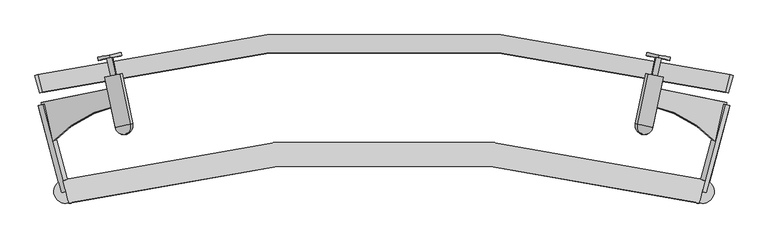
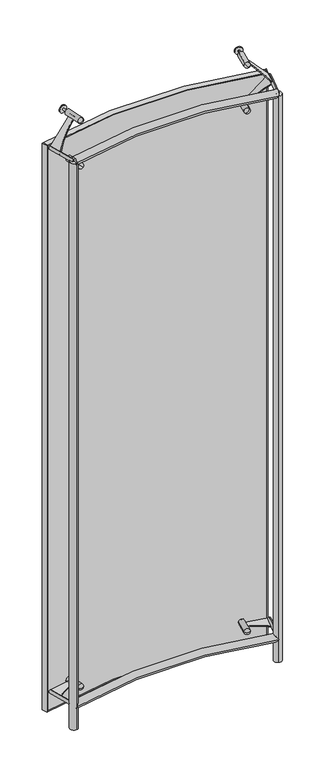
"""IFC4 building model written with IfcOpenShell, lengths in millimetres: plate geometry, CONVEX_SPIDER : CONVEX_SPIDER."""

from ifc_helpers import new_model, si_unit, point, frame, frame_2d, origin, origin_with_axes, place, context, project, spatial, polyline, circle_curve, ellipse_curve, trimmed, segment, composite_curve, outline, extrude, source, transform, mapped, element, save
from ifc_brep_helpers import plane_surface, cylinder_surface, revolved_surface, advanced_brep


def plate_3ce3822d(model_context):
    return source(origin(), model_context, "Body", "SolidModel", [
        extrude(outline(composite_curve([segment(polyline([(-30.0, 0.0), (0.0, 0.0)]), True, "CONTINUOUS"), segment(trimmed(circle_curve(frame_2d((375.1980994, -8.229243)), 375.2883348), [point((0.0, 0.0))], [point((39.9999999, -177.0))], True, "CARTESIAN"), True, "CONTINUOUS"), segment(polyline([(39.9999999, -177.0), (-30.0, -177.0), (-30.0, 0.0)]), True, "CONTINUOUS")], self_intersect=False)), frame((-438.330187, -48.3470288, 3228.232233), z_axis=(-0.6924142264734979, -0.14339643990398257, 0.707106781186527), x_axis=(0.20279319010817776, -0.9792215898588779, 0.0)), (0.0, 0.0, 1.0), 5.0),
        advanced_brep(
        [(-456.2846777, 29.6322073, 3230.0), (-459.7467489, 28.9152251, 3226.4644661), (-452.8226066, 30.3491895, 3233.5355339), (-439.8146686, 2.4065062, 3240.6066017), (-460.5870954, -1.895387, 3219.3933983), (-443.3496743, -85.1292221, 3219.3933983), (-422.5772475, -80.8273289, 3240.6066017), (-446.7388109, 0.9725418, 3233.5355339), (-453.6629532, -0.4614226, 3226.4644661), (-429.921563, -97.6665994, 3230.0)],
        [
            (0, 1),
            (1, 2, circle_curve(frame((-456.2846777, 29.6322073, 3230.0), z_axis=(-0.20279319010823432, 0.9792215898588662, 0.0), x_axis=(-0.6924142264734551, -0.14339643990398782, -0.707106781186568)), 5.0)),
            (2, 0),
            (2, 1, circle_curve(frame((-456.2846777, 29.6322073, 3230.0), z_axis=(-0.20279319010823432, 0.9792215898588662, 0.0), x_axis=(-0.6924142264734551, -0.14339643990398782, -0.707106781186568)), 5.0)),
            (3, 4, circle_curve(frame((-450.200882, 0.2555596, 3230.0), z_axis=(0.20279319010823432, -0.9792215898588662, 0.0), x_axis=(-0.6924142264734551, -0.14339643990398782, -0.707106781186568)), 15.0)),
            (4, 5),
            (5, 6, circle_curve(frame((-432.9634609, -82.9782755, 3230.0), z_axis=(-0.20279319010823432, 0.9792215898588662, 0.0), x_axis=(-0.6924142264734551, -0.14339643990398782, -0.707106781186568)), 15.0)),
            (6, 3),
            (4, 3, circle_curve(frame((-450.200882, 0.2555596, 3230.0), z_axis=(0.20279319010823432, -0.9792215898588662, 0.0), x_axis=(-0.6924142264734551, -0.14339643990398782, -0.707106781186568)), 15.0)),
            (6, 5, circle_curve(frame((-432.9634609, -82.9782755, 3230.0), z_axis=(-0.20279319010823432, 0.9792215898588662, 0.0), x_axis=(-0.6924142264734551, -0.14339643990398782, -0.707106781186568)), 15.0)),
            (7, 8, circle_curve(frame((-450.200882, 0.2555596, 3230.0), z_axis=(0.20279319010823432, -0.9792215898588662, 0.0), x_axis=(-0.6924142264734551, -0.14339643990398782, -0.707106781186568)), 5.0)),
            (8, 4),
            (3, 7),
            (8, 7, circle_curve(frame((-450.200882, 0.2555596, 3230.0), z_axis=(0.20279319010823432, -0.9792215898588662, 0.0), x_axis=(-0.6924142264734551, -0.14339643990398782, -0.707106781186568)), 5.0)),
            (1, 8),
            (7, 2),
            (5, 9, circle_curve(frame((-432.9634609, -82.9782755, 3230.0), z_axis=(-0.6924142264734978, -0.14339643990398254, 0.707106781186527), x_axis=(-0.6924142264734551, -0.14339643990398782, -0.707106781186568)), 15.0)),
            (9, 6, circle_curve(frame((-432.9634609, -82.9782755, 3230.0), z_axis=(-0.6924142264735, -0.14339643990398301, 0.7071067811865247), x_axis=(0.6924142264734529, 0.14339643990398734, 0.7071067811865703)), 15.0)),
        ],
        [
            plane_surface(frame((-456.2846777, 29.6322073, 3230.0), z_axis=(-0.20279319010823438, 0.9792215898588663, 0.0), x_axis=(-0.6924142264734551, -0.14339643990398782, -0.707106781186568))),
            cylinder_surface(frame((-507.9969412, 279.3337127, 3230.0), z_axis=(-0.20279319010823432, 0.9792215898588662, 0.0), x_axis=(-0.6924142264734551, -0.14339643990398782, -0.707106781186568)), 15.0),
            plane_surface(frame((-450.200882, 0.2555596, 3230.0), z_axis=(-0.20279319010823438, 0.9792215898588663, 0.0), x_axis=(-0.6924142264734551, -0.14339643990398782, -0.707106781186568))),
            cylinder_surface(frame((-507.9969412, 279.3337127, 3230.0), z_axis=(-0.20279319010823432, 0.9792215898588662, 0.0), x_axis=(-0.6924142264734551, -0.14339643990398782, -0.707106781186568)), 5.0),
            revolved_surface(trimmed(ellipse_curve(frame((-432.9634609, -82.9782755, 3230.0), z_axis=(0.6924142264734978, 0.14339643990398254, -0.707106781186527), x_axis=(-0.6924142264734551, -0.14339643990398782, -0.707106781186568)), 15.0, 15.0), [point((-429.921563, -97.6665994, 3230.0))], [point((-443.3496743, -85.1292221, 3219.3933983))], True, "CARTESIAN"), (-507.9969412, 279.3337127, 3230.0), (-0.20279319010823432, 0.9792215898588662, 0.0)),
        ],
        [
            (0, [[1, 2, 3]]),
            (0, [[-3, 4, -1]]),
            (1, [[5, 6, 7, 8]]),
            (1, [[9, -8, 10, -6]]),
            (2, [[11, 12, -5, 13]]),
            (2, [[14, -13, -9, -12]]),
            (3, [[-2, 15, -11, 16]]),
            (3, [[-4, -16, -14, -15]]),
            (4, [[-7, 17, 18]]),
            (4, [[-10, -18, -17]]),
        ],
    ),
        extrude(outline(composite_curve([segment(polyline([(-30.0, 0.0), (-30.0, 177.0), (39.9999999, 177.0)]), True, "CONTINUOUS"), segment(trimmed(circle_curve(frame_2d((375.1980994, 8.229243)), 375.2883348), [point((39.9999999, 177.0))], [point((0.0, 0.0))], True, "CARTESIAN"), True, "CONTINUOUS"), segment(polyline([(0.0, 0.0), (-30.0, 0.0)]), True, "CONTINUOUS")], self_intersect=False)), frame((438.330187, -48.3470288, 3228.232233), z_axis=(0.6924142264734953, -0.14339643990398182, 0.7071067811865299), x_axis=(-0.2027931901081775, -0.979221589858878, 0.0)), (0.0, 0.0, 1.0), 5.0),
        advanced_brep(
        [(456.2846777, 29.6322073, 3230.0), (452.8226066, 30.3491895, 3233.5355339), (459.7467489, 28.9152251, 3226.4644661), (439.8146686, 2.4065062, 3240.6066017), (422.5772475, -80.8273289, 3240.6066017), (443.3496743, -85.1292221, 3219.3933983), (460.5870954, -1.895387, 3219.3933983), (446.7388109, 0.9725418, 3233.5355339), (453.6629532, -0.4614226, 3226.4644661), (429.921563, -97.6665994, 3230.0)],
        [
            (0, 1),
            (1, 2, circle_curve(frame((456.2846777, 29.6322073, 3230.0), z_axis=(0.20279319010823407, 0.9792215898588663, 0.0), x_axis=(0.6924142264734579, -0.14339643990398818, -0.7071067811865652)), 5.0)),
            (2, 0),
            (2, 1, circle_curve(frame((456.2846777, 29.6322073, 3230.0), z_axis=(0.20279319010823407, 0.9792215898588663, 0.0), x_axis=(0.6924142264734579, -0.14339643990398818, -0.7071067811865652)), 5.0)),
            (3, 4),
            (4, 5, circle_curve(frame((432.9634609, -82.9782755, 3230.0), z_axis=(0.20279319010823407, 0.9792215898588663, 0.0), x_axis=(0.6924142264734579, -0.14339643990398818, -0.7071067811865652)), 15.0)),
            (5, 6),
            (6, 3, circle_curve(frame((450.200882, 0.2555596, 3230.0), z_axis=(-0.20279319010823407, -0.9792215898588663, 0.0), x_axis=(0.6924142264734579, -0.14339643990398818, -0.7071067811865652)), 15.0)),
            (5, 4, circle_curve(frame((432.9634609, -82.9782755, 3230.0), z_axis=(0.20279319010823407, 0.9792215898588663, 0.0), x_axis=(0.6924142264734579, -0.14339643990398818, -0.7071067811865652)), 15.0)),
            (3, 6, circle_curve(frame((450.200882, 0.2555596, 3230.0), z_axis=(-0.20279319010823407, -0.9792215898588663, 0.0), x_axis=(0.6924142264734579, -0.14339643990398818, -0.7071067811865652)), 15.0)),
            (7, 3),
            (6, 8),
            (8, 7, circle_curve(frame((450.200882, 0.2555596, 3230.0), z_axis=(-0.20279319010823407, -0.9792215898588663, 0.0), x_axis=(0.6924142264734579, -0.14339643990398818, -0.7071067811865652)), 5.0)),
            (7, 8, circle_curve(frame((450.200882, 0.2555596, 3230.0), z_axis=(-0.20279319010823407, -0.9792215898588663, 0.0), x_axis=(0.6924142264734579, -0.14339643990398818, -0.7071067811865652)), 5.0)),
            (1, 7),
            (8, 2),
            (4, 9, circle_curve(frame((432.9634609, -82.9782755, 3230.0), z_axis=(0.6924142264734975, -0.1433964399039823, 0.7071067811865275), x_axis=(-0.6924142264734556, 0.1433964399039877, 0.7071067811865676)), 15.0)),
            (9, 5, circle_curve(frame((432.9634609, -82.9782755, 3230.0), z_axis=(0.6924142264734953, -0.14339643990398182, 0.7071067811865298), x_axis=(0.6924142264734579, -0.14339643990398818, -0.7071067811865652)), 15.0)),
        ],
        [
            plane_surface(frame((456.2846777, 29.6322073, 3230.0), z_axis=(0.20279319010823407, 0.9792215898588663, 0.0), x_axis=(0.6924142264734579, -0.14339643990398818, -0.7071067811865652))),
            cylinder_surface(frame((507.9969412, 279.3337127, 3230.0), z_axis=(0.20279319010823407, 0.9792215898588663, 0.0), x_axis=(0.6924142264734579, -0.14339643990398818, -0.7071067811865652)), 15.0),
            plane_surface(frame((450.200882, 0.2555596, 3230.0), z_axis=(0.20279319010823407, 0.9792215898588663, 0.0), x_axis=(0.6924142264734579, -0.14339643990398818, -0.7071067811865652))),
            cylinder_surface(frame((507.9969412, 279.3337127, 3230.0), z_axis=(0.20279319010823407, 0.9792215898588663, 0.0), x_axis=(0.6924142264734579, -0.14339643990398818, -0.7071067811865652)), 5.0),
            revolved_surface(trimmed(ellipse_curve(frame((432.9634609, -82.9782755, 3230.0), z_axis=(0.6924142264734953, -0.14339643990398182, 0.7071067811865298), x_axis=(0.6924142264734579, -0.14339643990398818, -0.7071067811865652)), 15.0, 15.0), [point((429.921563, -97.6665994, 3230.0))], [point((443.3496743, -85.1292221, 3219.3933983))], True, "CARTESIAN"), (507.9969412, 279.3337127, 3230.0), (0.20279319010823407, 0.9792215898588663, 0.0)),
        ],
        [
            (0, [[1, 2, 3]]),
            (0, [[-3, 4, -1]]),
            (1, [[5, 6, 7, 8]]),
            (1, [[-7, 9, -5, 10]]),
            (2, [[11, -8, 12, 13]]),
            (2, [[-12, -10, -11, 14]]),
            (3, [[15, -13, 16, -2]]),
            (3, [[-16, -14, -15, -4]]),
            (4, [[17, 18, -6]]),
            (4, [[-18, -17, -9]]),
        ],
    ),
        extrude(outline(composite_curve([segment(polyline([(30.0, 0.0), (30.0, -177.0), (-39.9999999, -177.0)]), True, "CONTINUOUS"), segment(trimmed(circle_curve(frame_2d((-375.1980994, -8.2292431)), 375.2883348), [point((-39.9999999, -177.0))], [point((0.0, 0.0))], True, "CARTESIAN"), True, "CONTINUOUS"), segment(polyline([(0.0, 0.0), (30.0, 0.0)]), True, "CONTINUOUS")], self_intersect=False)), frame((441.7922581, -49.064011, 2978.232233), z_axis=(-0.6924142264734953, 0.14339643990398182, 0.7071067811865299), x_axis=(0.2027931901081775, 0.979221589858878, 0.0)), (0.0, 0.0, 1.0), 5.0),
        advanced_brep(
        [(456.2846777, 29.6322073, 2980.0), (459.7467489, 28.9152251, 2983.5355339), (452.8226066, 30.3491895, 2976.4644661), (439.8146686, 2.4065062, 2969.3933983), (460.5870954, -1.895387, 2990.6066017), (443.3496743, -85.1292221, 2990.6066017), (422.5772475, -80.8273289, 2969.3933983), (446.7388109, 0.9725418, 2976.4644661), (453.6629532, -0.4614226, 2983.5355339), (429.921563, -97.6665994, 2980.0)],
        [
            (0, 1),
            (1, 2, circle_curve(frame((456.2846777, 29.6322073, 2980.0), z_axis=(0.20279319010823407, 0.9792215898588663, 0.0), x_axis=(0.6924142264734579, -0.14339643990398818, 0.7071067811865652)), 5.0)),
            (2, 0),
            (2, 1, circle_curve(frame((456.2846777, 29.6322073, 2980.0), z_axis=(0.20279319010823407, 0.9792215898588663, 0.0), x_axis=(0.6924142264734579, -0.14339643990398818, 0.7071067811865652)), 5.0)),
            (3, 4, circle_curve(frame((450.200882, 0.2555596, 2980.0), z_axis=(-0.20279319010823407, -0.9792215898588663, 0.0), x_axis=(0.6924142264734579, -0.14339643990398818, 0.7071067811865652)), 15.0)),
            (4, 5),
            (5, 6, circle_curve(frame((432.9634609, -82.9782755, 2980.0), z_axis=(0.20279319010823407, 0.9792215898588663, 0.0), x_axis=(0.6924142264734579, -0.14339643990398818, 0.7071067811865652)), 15.0)),
            (6, 3),
            (4, 3, circle_curve(frame((450.200882, 0.2555596, 2980.0), z_axis=(-0.20279319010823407, -0.9792215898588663, 0.0), x_axis=(0.6924142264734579, -0.14339643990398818, 0.7071067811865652)), 15.0)),
            (6, 5, circle_curve(frame((432.9634609, -82.9782755, 2980.0), z_axis=(0.20279319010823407, 0.9792215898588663, 0.0), x_axis=(0.6924142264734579, -0.14339643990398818, 0.7071067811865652)), 15.0)),
            (7, 8, circle_curve(frame((450.200882, 0.2555596, 2980.0), z_axis=(-0.20279319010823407, -0.9792215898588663, 0.0), x_axis=(0.6924142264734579, -0.14339643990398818, 0.7071067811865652)), 5.0)),
            (8, 4),
            (3, 7),
            (8, 7, circle_curve(frame((450.200882, 0.2555596, 2980.0), z_axis=(-0.20279319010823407, -0.9792215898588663, 0.0), x_axis=(0.6924142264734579, -0.14339643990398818, 0.7071067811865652)), 5.0)),
            (1, 8),
            (7, 2),
            (5, 9, circle_curve(frame((432.9634609, -82.9782755, 2980.0), z_axis=(0.6924142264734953, -0.14339643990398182, -0.7071067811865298), x_axis=(0.6924142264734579, -0.14339643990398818, 0.7071067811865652)), 15.0)),
            (9, 6, circle_curve(frame((432.9634609, -82.9782755, 2980.0), z_axis=(0.6924142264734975, -0.1433964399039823, -0.7071067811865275), x_axis=(-0.6924142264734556, 0.1433964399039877, -0.7071067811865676)), 15.0)),
        ],
        [
            plane_surface(frame((456.2846777, 29.6322073, 2980.0), z_axis=(0.20279319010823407, 0.9792215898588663, 0.0), x_axis=(0.6924142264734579, -0.14339643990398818, 0.7071067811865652))),
            cylinder_surface(frame((507.9969412, 279.3337127, 2980.0), z_axis=(0.20279319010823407, 0.9792215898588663, 0.0), x_axis=(0.6924142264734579, -0.14339643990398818, 0.7071067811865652)), 15.0),
            plane_surface(frame((450.200882, 0.2555596, 2980.0), z_axis=(0.20279319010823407, 0.9792215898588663, 0.0), x_axis=(0.6924142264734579, -0.14339643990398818, 0.7071067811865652))),
            cylinder_surface(frame((507.9969412, 279.3337127, 2980.0), z_axis=(0.20279319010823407, 0.9792215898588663, 0.0), x_axis=(0.6924142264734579, -0.14339643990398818, 0.7071067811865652)), 5.0),
            revolved_surface(trimmed(ellipse_curve(frame((432.9634609, -82.9782755, 2980.0), z_axis=(-0.6924142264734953, 0.14339643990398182, 0.7071067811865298), x_axis=(0.6924142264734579, -0.14339643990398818, 0.7071067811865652)), 15.0, 15.0), [point((429.921563, -97.6665994, 2980.0))], [point((443.3496743, -85.1292221, 2990.6066017))], True, "CARTESIAN"), (507.9969412, 279.3337127, 2980.0), (0.20279319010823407, 0.9792215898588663, 0.0)),
        ],
        [
            (0, [[1, 2, 3]]),
            (0, [[-3, 4, -1]]),
            (1, [[5, 6, 7, 8]]),
            (1, [[9, -8, 10, -6]]),
            (2, [[11, 12, -5, 13]]),
            (2, [[14, -13, -9, -12]]),
            (3, [[-2, 15, -11, 16]]),
            (3, [[-4, -16, -14, -15]]),
            (4, [[-7, 17, 18]]),
            (4, [[-10, -18, -17]]),
        ],
    ),
        extrude(outline(composite_curve([segment(polyline([(30.0, 0.0), (0.0, 0.0)]), True, "CONTINUOUS"), segment(trimmed(circle_curve(frame_2d((-375.1980994, 8.2292431)), 375.2883348), [point((0.0, 0.0))], [point((-39.9999999, 177.0))], True, "CARTESIAN"), True, "CONTINUOUS"), segment(polyline([(-39.9999999, 177.0), (30.0, 177.0), (30.0, 0.0)]), True, "CONTINUOUS")], self_intersect=False)), frame((-441.7922581, -49.064011, 2978.232233), z_axis=(0.6924142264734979, 0.14339643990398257, 0.707106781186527), x_axis=(-0.20279319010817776, 0.9792215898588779, 0.0)), (0.0, 0.0, 1.0), 5.0),
        advanced_brep(
        [(-456.2846777, 29.6322073, 2980.0), (-452.8226066, 30.3491895, 2976.4644661), (-459.7467489, 28.9152251, 2983.5355339), (-439.8146686, 2.4065062, 2969.3933983), (-422.5772475, -80.8273289, 2969.3933983), (-443.3496743, -85.1292221, 2990.6066017), (-460.5870954, -1.895387, 2990.6066017), (-446.7388109, 0.9725418, 2976.4644661), (-453.6629532, -0.4614226, 2983.5355339), (-429.921563, -97.6665994, 2980.0)],
        [
            (0, 1),
            (1, 2, circle_curve(frame((-456.2846777, 29.6322073, 2980.0), z_axis=(-0.20279319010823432, 0.9792215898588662, 0.0), x_axis=(-0.6924142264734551, -0.14339643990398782, 0.707106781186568)), 5.0)),
            (2, 0),
            (2, 1, circle_curve(frame((-456.2846777, 29.6322073, 2980.0), z_axis=(-0.20279319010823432, 0.9792215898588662, 0.0), x_axis=(-0.6924142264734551, -0.14339643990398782, 0.707106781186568)), 5.0)),
            (3, 4),
            (4, 5, circle_curve(frame((-432.9634609, -82.9782755, 2980.0), z_axis=(-0.20279319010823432, 0.9792215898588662, 0.0), x_axis=(-0.6924142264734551, -0.14339643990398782, 0.707106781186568)), 15.0)),
            (5, 6),
            (6, 3, circle_curve(frame((-450.200882, 0.2555596, 2980.0), z_axis=(0.20279319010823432, -0.9792215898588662, 0.0), x_axis=(-0.6924142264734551, -0.14339643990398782, 0.707106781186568)), 15.0)),
            (5, 4, circle_curve(frame((-432.9634609, -82.9782755, 2980.0), z_axis=(-0.20279319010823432, 0.9792215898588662, 0.0), x_axis=(-0.6924142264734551, -0.14339643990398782, 0.707106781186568)), 15.0)),
            (3, 6, circle_curve(frame((-450.200882, 0.2555596, 2980.0), z_axis=(0.20279319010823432, -0.9792215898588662, 0.0), x_axis=(-0.6924142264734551, -0.14339643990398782, 0.707106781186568)), 15.0)),
            (7, 3),
            (6, 8),
            (8, 7, circle_curve(frame((-450.200882, 0.2555596, 2980.0), z_axis=(0.20279319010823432, -0.9792215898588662, 0.0), x_axis=(-0.6924142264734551, -0.14339643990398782, 0.707106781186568)), 5.0)),
            (7, 8, circle_curve(frame((-450.200882, 0.2555596, 2980.0), z_axis=(0.20279319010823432, -0.9792215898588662, 0.0), x_axis=(-0.6924142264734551, -0.14339643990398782, 0.707106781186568)), 5.0)),
            (1, 7),
            (8, 2),
            (4, 9, circle_curve(frame((-432.9634609, -82.9782755, 2980.0), z_axis=(-0.6924142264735, -0.14339643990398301, -0.7071067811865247), x_axis=(0.6924142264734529, 0.14339643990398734, -0.7071067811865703)), 15.0)),
            (9, 5, circle_curve(frame((-432.9634609, -82.9782755, 2980.0), z_axis=(-0.6924142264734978, -0.14339643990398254, -0.707106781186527), x_axis=(-0.6924142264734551, -0.14339643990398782, 0.707106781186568)), 15.0)),
        ],
        [
            plane_surface(frame((-456.2846777, 29.6322073, 2980.0), z_axis=(-0.20279319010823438, 0.9792215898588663, 0.0), x_axis=(-0.6924142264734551, -0.14339643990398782, 0.707106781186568))),
            cylinder_surface(frame((-507.9969412, 279.3337127, 2980.0), z_axis=(-0.20279319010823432, 0.9792215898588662, 0.0), x_axis=(-0.6924142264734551, -0.14339643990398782, 0.707106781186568)), 15.0),
            plane_surface(frame((-450.200882, 0.2555596, 2980.0), z_axis=(-0.20279319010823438, 0.9792215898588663, 0.0), x_axis=(-0.6924142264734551, -0.14339643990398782, 0.707106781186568))),
            cylinder_surface(frame((-507.9969412, 279.3337127, 2980.0), z_axis=(-0.20279319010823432, 0.9792215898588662, 0.0), x_axis=(-0.6924142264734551, -0.14339643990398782, 0.707106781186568)), 5.0),
            revolved_surface(trimmed(ellipse_curve(frame((-432.9634609, -82.9782755, 2980.0), z_axis=(-0.6924142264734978, -0.14339643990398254, -0.707106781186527), x_axis=(-0.6924142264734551, -0.14339643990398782, 0.707106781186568)), 15.0, 15.0), [point((-429.921563, -97.6665994, 2980.0))], [point((-443.3496743, -85.1292221, 2990.6066017))], True, "CARTESIAN"), (-507.9969412, 279.3337127, 2980.0), (-0.20279319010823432, 0.9792215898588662, 0.0)),
        ],
        [
            (0, [[1, 2, 3]]),
            (0, [[-3, 4, -1]]),
            (1, [[5, 6, 7, 8]]),
            (1, [[-7, 9, -5, 10]]),
            (2, [[11, -8, 12, 13]]),
            (2, [[-12, -10, -11, 14]]),
            (3, [[15, -13, 16, -2]]),
            (3, [[-16, -14, -15, -4]]),
            (4, [[17, 18, -6]]),
            (4, [[-18, -17, -9]]),
        ],
    ),
        extrude(outline(composite_curve([segment(polyline([(446.1450182, -19.3288722), (568.547717, -44.678021), (554.3521937, -113.2235322)]), True, "CONTINUOUS"), segment(trimmed(circle_curve(frame_2d((389.613546, -271.5613305)), 228.4943772), [point((554.3521937, -113.2235322))], [point((440.0612225, -48.7055199))], True, "CARTESIAN"), True, "CONTINUOUS"), segment(polyline([(440.0612225, -48.7055199), (446.1450182, -19.3288722)]), True, "CONTINUOUS")], self_intersect=False)), frame((0.0, 0.0, 122.5), z_axis=(0.0, 0.0, 1.0), x_axis=(1.0, 0.0, 0.0)), (0.0, 0.0, 1.0), 5.0),
        advanced_brep(
        [(456.2846777, 29.6322073, 125.0), (461.1807857, 28.6182413, 125.0), (451.3885698, 30.6461733, 125.0), (435.5125582, 3.2974575, 125.0), (464.8892059, -2.7863382, 125.0), (447.6517847, -86.0201734, 125.0), (418.275137, -79.9363777, 125.0), (445.3047741, 1.2695256, 125.0), (455.09699, -0.7584063, 125.0), (429.921563, -97.6665994, 125.0)],
        [
            (0, 1),
            (1, 2, circle_curve(frame((456.2846777, 29.6322073, 125.0), z_axis=(0.20279319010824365, 0.9792215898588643, 0.0), x_axis=(0.9792215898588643, -0.20279319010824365, 0.0)), 5.0)),
            (2, 0),
            (2, 1, circle_curve(frame((456.2846777, 29.6322073, 125.0), z_axis=(0.20279319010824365, 0.9792215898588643, 0.0), x_axis=(0.9792215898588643, -0.20279319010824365, 0.0)), 5.0)),
            (3, 4, circle_curve(frame((450.200882, 0.2555596, 125.0), z_axis=(-0.20279319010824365, -0.9792215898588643, 0.0), x_axis=(0.9792215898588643, -0.20279319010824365, 0.0)), 15.0)),
            (4, 5),
            (5, 6, circle_curve(frame((432.9634609, -82.9782755, 125.0), z_axis=(0.20279319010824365, 0.9792215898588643, 0.0), x_axis=(0.9792215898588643, -0.20279319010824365, 0.0)), 15.0)),
            (6, 3),
            (4, 3, circle_curve(frame((450.200882, 0.2555596, 125.0), z_axis=(-0.20279319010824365, -0.9792215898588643, 0.0), x_axis=(0.9792215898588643, -0.20279319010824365, 0.0)), 15.0)),
            (6, 5, circle_curve(frame((432.9634609, -82.9782755, 125.0), z_axis=(0.20279319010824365, 0.9792215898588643, 0.0), x_axis=(0.9792215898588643, -0.20279319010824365, 0.0)), 15.0)),
            (7, 8, circle_curve(frame((450.200882, 0.2555596, 125.0), z_axis=(-0.20279319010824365, -0.9792215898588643, 0.0), x_axis=(0.9792215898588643, -0.20279319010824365, 0.0)), 5.0)),
            (8, 4),
            (3, 7),
            (8, 7, circle_curve(frame((450.200882, 0.2555596, 125.0), z_axis=(-0.20279319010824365, -0.9792215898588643, 0.0), x_axis=(0.9792215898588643, -0.20279319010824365, 0.0)), 5.0)),
            (1, 8),
            (7, 2),
            (5, 9, circle_curve(frame((432.9634609, -82.9782755, 125.0), z_axis=(0.0, 0.0, -1.0000000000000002), x_axis=(0.9792215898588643, -0.20279319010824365, 0.0)), 15.0)),
            (9, 6, circle_curve(frame((432.9634609, -82.9782755, 125.0), z_axis=(0.0, 0.0, -1.0000000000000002), x_axis=(-0.9792215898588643, 0.20279319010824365, 0.0)), 15.0)),
        ],
        [
            plane_surface(frame((456.2846777, 29.6322073, 125.0), z_axis=(0.20279319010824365, 0.9792215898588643, 0.0), x_axis=(0.9792215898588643, -0.20279319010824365, 0.0))),
            cylinder_surface(frame((507.9969412, 279.3337127, 125.0), z_axis=(0.20279319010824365, 0.9792215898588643, 0.0), x_axis=(0.9792215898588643, -0.20279319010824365, 0.0)), 15.0),
            plane_surface(frame((450.200882, 0.2555596, 125.0), z_axis=(0.20279319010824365, 0.9792215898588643, 0.0), x_axis=(0.9792215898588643, -0.20279319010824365, 0.0))),
            cylinder_surface(frame((507.9969412, 279.3337127, 125.0), z_axis=(0.20279319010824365, 0.9792215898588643, 0.0), x_axis=(0.9792215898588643, -0.20279319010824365, 0.0)), 5.0),
            revolved_surface(trimmed(ellipse_curve(frame((432.9634609, -82.9782755, 125.0), z_axis=(0.0, 0.0, 1.0000000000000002), x_axis=(0.9792215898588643, -0.20279319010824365, 0.0)), 15.0, 15.0), [point((429.921563, -97.6665994, 125.0))], [point((447.6517847, -86.0201734, 125.0))], True, "CARTESIAN"), (507.9969412, 279.3337127, 125.0), (0.20279319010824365, 0.9792215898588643, 0.0)),
        ],
        [
            (0, [[1, 2, 3]]),
            (0, [[-3, 4, -1]]),
            (1, [[5, 6, 7, 8]]),
            (1, [[9, -8, 10, -6]]),
            (2, [[11, 12, -5, 13]]),
            (2, [[14, -13, -9, -12]]),
            (3, [[-2, 15, -11, 16]]),
            (3, [[-4, -16, -14, -15]]),
            (4, [[-7, 17, 18]]),
            (4, [[-10, -18, -17]]),
        ],
    ),
        extrude(outline(composite_curve([segment(polyline([(-446.1450182, -19.3288722), (-440.0612225, -48.7055199)]), True, "CONTINUOUS"), segment(trimmed(circle_curve(frame_2d((-389.613546, -271.5613305)), 228.4943772), [point((-440.0612225, -48.7055199))], [point((-554.3521937, -113.2235322))], True, "CARTESIAN"), True, "CONTINUOUS"), segment(polyline([(-554.3521937, -113.2235322), (-568.547717, -44.678021), (-446.1450182, -19.3288722)]), True, "CONTINUOUS")], self_intersect=False)), frame((0.0, 0.0, 122.5), z_axis=(0.0, 0.0, 1.0), x_axis=(1.0, 0.0, 0.0)), (0.0, 0.0, 1.0), 5.0),
        advanced_brep(
        [(-456.2846777, 29.6322073, 125.0), (-461.1807857, 28.6182413, 125.0), (-451.3885698, 30.6461733, 125.0), (-435.5125582, 3.2974575, 125.0), (-464.8892059, -2.7863382, 125.0), (-447.6517847, -86.0201734, 125.0), (-418.275137, -79.9363777, 125.0), (-445.3047741, 1.2695256, 125.0), (-455.09699, -0.7584063, 125.0), (-429.921563, -97.6665994, 125.0)],
        [
            (0, 1),
            (1, 2, circle_curve(frame((-456.2846777, 29.6322073, 125.0), z_axis=(-0.2027931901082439, 0.9792215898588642, 0.0), x_axis=(-0.9792215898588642, -0.2027931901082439, 0.0)), 5.0)),
            (2, 0),
            (2, 1, circle_curve(frame((-456.2846777, 29.6322073, 125.0), z_axis=(-0.2027931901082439, 0.9792215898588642, 0.0), x_axis=(-0.9792215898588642, -0.2027931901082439, 0.0)), 5.0)),
            (3, 4, circle_curve(frame((-450.200882, 0.2555596, 125.0), z_axis=(0.2027931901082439, -0.9792215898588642, 0.0), x_axis=(-0.9792215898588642, -0.2027931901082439, 0.0)), 15.0)),
            (4, 5),
            (5, 6, circle_curve(frame((-432.9634609, -82.9782755, 125.0), z_axis=(-0.2027931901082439, 0.9792215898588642, 0.0), x_axis=(-0.9792215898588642, -0.2027931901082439, 0.0)), 15.0)),
            (6, 3),
            (4, 3, circle_curve(frame((-450.200882, 0.2555596, 125.0), z_axis=(0.2027931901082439, -0.9792215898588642, 0.0), x_axis=(-0.9792215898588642, -0.2027931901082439, 0.0)), 15.0)),
            (6, 5, circle_curve(frame((-432.9634609, -82.9782755, 125.0), z_axis=(-0.2027931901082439, 0.9792215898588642, 0.0), x_axis=(-0.9792215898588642, -0.2027931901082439, 0.0)), 15.0)),
            (7, 8, circle_curve(frame((-450.200882, 0.2555596, 125.0), z_axis=(0.2027931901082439, -0.9792215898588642, 0.0), x_axis=(-0.9792215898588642, -0.2027931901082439, 0.0)), 5.0)),
            (8, 4),
            (3, 7),
            (8, 7, circle_curve(frame((-450.200882, 0.2555596, 125.0), z_axis=(0.2027931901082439, -0.9792215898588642, 0.0), x_axis=(-0.9792215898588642, -0.2027931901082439, 0.0)), 5.0)),
            (1, 8),
            (7, 2),
            (5, 9, circle_curve(frame((-432.9634609, -82.9782755, 125.0), z_axis=(0.0, 0.0, 1.0), x_axis=(-0.9792215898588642, -0.2027931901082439, 0.0)), 15.0)),
            (9, 6, circle_curve(frame((-432.9634609, -82.9782755, 125.0), z_axis=(0.0, 0.0, 1.0), x_axis=(0.9792215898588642, 0.2027931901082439, 0.0)), 15.0)),
        ],
        [
            plane_surface(frame((-456.2846777, 29.6322073, 125.0), z_axis=(-0.2027931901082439, 0.9792215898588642, 0.0), x_axis=(-0.9792215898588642, -0.2027931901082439, 0.0))),
            cylinder_surface(frame((-507.9969412, 279.3337127, 125.0), z_axis=(-0.2027931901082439, 0.9792215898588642, 0.0), x_axis=(-0.9792215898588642, -0.2027931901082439, 0.0)), 15.0),
            plane_surface(frame((-450.200882, 0.2555596, 125.0), z_axis=(-0.2027931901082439, 0.9792215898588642, 0.0), x_axis=(-0.9792215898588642, -0.2027931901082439, 0.0))),
            cylinder_surface(frame((-507.9969412, 279.3337127, 125.0), z_axis=(-0.2027931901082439, 0.9792215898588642, 0.0), x_axis=(-0.9792215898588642, -0.2027931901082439, 0.0)), 5.0),
            revolved_surface(trimmed(ellipse_curve(frame((-432.9634609, -82.9782755, 125.0), z_axis=(0.0, 0.0, -1.0), x_axis=(-0.9792215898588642, -0.2027931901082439, 0.0)), 15.0, 15.0), [point((-429.921563, -97.6665994, 125.0))], [point((-447.6517847, -86.0201734, 125.0))], True, "CARTESIAN"), (-507.9969412, 279.3337127, 125.0), (-0.2027931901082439, 0.9792215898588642, 0.0)),
        ],
        [
            (0, [[1, 2, 3]]),
            (0, [[-3, 4, -1]]),
            (1, [[5, 6, 7, 8]]),
            (1, [[9, -8, 10, -6]]),
            (2, [[11, 12, -5, 13]]),
            (2, [[14, -13, -9, -12]]),
            (3, [[-2, 15, -11, 16]]),
            (3, [[-4, -16, -14, -15]]),
            (4, [[-7, 17, 18]]),
            (4, [[-10, -18, -17]]),
        ],
    ),
        extrude(outline(composite_curve([segment(trimmed(circle_curve(frame_2d((0.0, -7.5)), 7.5), [point((0.0, -15.0))], [point((0.0, 0.0))], False, "CARTESIAN"), True, "CONTINUOUS"), segment(trimmed(circle_curve(frame_2d((0.0, -7.5)), 7.5), [point((0.0, 0.0))], [point((0.0, -15.0))], False, "CARTESIAN"), True, "CONTINUOUS")], self_intersect=False)), frame((-529.6149286, -193.210344, 3112.5), z_axis=(-0.2583487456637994, 0.9660517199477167, 0.0), x_axis=(-0.9660517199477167, -0.2583487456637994, 0.0)), (0.0, 0.0, 1.0), 150.0),
        extrude(outline(composite_curve([segment(trimmed(circle_curve(frame_2d((0.0, -7.5)), 7.5), [point((0.0, -15.0))], [point((0.0, 0.0))], False, "CARTESIAN"), True, "CONTINUOUS"), segment(trimmed(circle_curve(frame_2d((0.0, -7.5)), 7.5), [point((0.0, 0.0))], [point((0.0, -15.0))], False, "CARTESIAN"), True, "CONTINUOUS")], self_intersect=False)), frame((529.5751806, -193.1997143, 3112.5), z_axis=(0.2583487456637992, 0.9660517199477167, 0.0), x_axis=(-0.9660517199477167, 0.2583487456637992, 0.0)), (0.0, 0.0, 1.0), 150.0),
        extrude(outline(composite_curve([segment(trimmed(circle_curve(frame_2d((0.0, -20.0)), 20.0), [point((0.0, -40.0))], [point((0.0, 0.0))], False, "CARTESIAN"), True, "CONTINUOUS"), segment(trimmed(circle_curve(frame_2d((0.0, -20.0)), 20.0), [point((0.0, 0.0))], [point((0.0, -40.0))], False, "CARTESIAN"), True, "CONTINUOUS")], self_intersect=False)), frame((-456.2846777, 29.6322073, 3000.0), z_axis=(-0.2027931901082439, 0.9792215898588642, 0.0), x_axis=(-0.9792215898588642, -0.2027931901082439, 0.0)), (0.0, 0.0, 1.0), 5.0),
        extrude(outline(composite_curve([segment(trimmed(circle_curve(frame_2d((0.0, 230.0)), 20.0), [point((0.0, 210.0))], [point((0.0, 250.0))], False, "CARTESIAN"), True, "CONTINUOUS"), segment(trimmed(circle_curve(frame_2d((0.0, 230.0)), 20.0), [point((0.0, 250.0))], [point((0.0, 210.0))], False, "CARTESIAN"), True, "CONTINUOUS")], self_intersect=False)), frame((-456.2846777, 29.6322073, 3000.0), z_axis=(-0.2027931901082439, 0.9792215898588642, 0.0), x_axis=(-0.9792215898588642, -0.2027931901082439, 0.0)), (0.0, 0.0, 1.0), 5.0),
        extrude(outline(composite_curve([segment(trimmed(circle_curve(frame_2d((0.0, -20.0)), 20.0), [point((0.0, -40.0))], [point((0.0, 0.0))], False, "CARTESIAN"), True, "CONTINUOUS"), segment(trimmed(circle_curve(frame_2d((0.0, -20.0)), 20.0), [point((0.0, 0.0))], [point((0.0, -40.0))], False, "CARTESIAN"), True, "CONTINUOUS")], self_intersect=False)), frame((456.2846777, 29.6322073, 3000.0), z_axis=(0.20279319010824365, 0.9792215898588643, 0.0), x_axis=(-0.9792215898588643, 0.20279319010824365, 0.0)), (0.0, 0.0, 1.0), 5.0),
        extrude(outline(composite_curve([segment(trimmed(circle_curve(frame_2d((0.0, 230.0)), 20.0), [point((0.0, 210.0))], [point((0.0, 250.0))], False, "CARTESIAN"), True, "CONTINUOUS"), segment(trimmed(circle_curve(frame_2d((0.0, 230.0)), 20.0), [point((0.0, 250.0))], [point((0.0, 210.0))], False, "CARTESIAN"), True, "CONTINUOUS")], self_intersect=False)), frame((456.2846777, 29.6322073, 3000.0), z_axis=(0.20279319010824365, 0.9792215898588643, 0.0), x_axis=(-0.9792215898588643, 0.20279319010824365, 0.0)), (0.0, 0.0, 1.0), 5.0),
        extrude(outline(polyline([(581.1178941, 0.0503463), (573.4340984, -28.9489517), (568.600882, -27.668319), (576.2846777, 1.330979), (581.1178941, 0.0503463)])), origin_with_axes(), (0.0, 0.0, 1.0), 3105.0),
        extrude(outline(polyline([(-573.4340984, -28.9489517), (-581.1178941, 0.0503463), (-576.2846777, 1.330979), (-568.600882, -27.668319), (-573.4340984, -28.9489517)])), origin_with_axes(), (0.0, 0.0, 1.0), 3105.0),
        extrude(outline(composite_curve([segment(trimmed(circle_curve(frame_2d((0.0, -7.5)), 7.5), [point((0.0, -15.0))], [point((0.0, 0.0))], False, "CARTESIAN"), True, "CONTINUOUS"), segment(trimmed(circle_curve(frame_2d((0.0, -7.5)), 7.5), [point((0.0, 0.0))], [point((0.0, -15.0))], False, "CARTESIAN"), True, "CONTINUOUS")], self_intersect=False)), frame((529.6149286, -193.210344, 132.5), z_axis=(0.2583487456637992, 0.9660517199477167, 0.0), x_axis=(-0.9660517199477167, 0.2583487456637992, 0.0)), (0.0, 0.0, 1.0), 150.0),
        extrude(outline(composite_curve([segment(trimmed(circle_curve(frame_2d((0.0, -20.0)), 20.0), [point((0.0, -40.0))], [point((0.0, 0.0))], False, "CARTESIAN"), True, "CONTINUOUS"), segment(trimmed(circle_curve(frame_2d((0.0, -20.0)), 20.0), [point((0.0, 0.0))], [point((0.0, -40.0))], False, "CARTESIAN"), True, "CONTINUOUS")], self_intersect=False)), frame((456.2846777, 29.6322073, 145.0), z_axis=(0.20279319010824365, 0.9792215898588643, 0.0), x_axis=(-0.9792215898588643, 0.20279319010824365, 0.0)), (0.0, 0.0, 1.0), 5.0),
        extrude(outline(composite_curve([segment(trimmed(circle_curve(frame_2d((0.0, -7.5)), 7.5), [point((0.0, -15.0))], [point((0.0, 0.0))], False, "CARTESIAN"), True, "CONTINUOUS"), segment(trimmed(circle_curve(frame_2d((0.0, -7.5)), 7.5), [point((0.0, 0.0))], [point((0.0, -15.0))], False, "CARTESIAN"), True, "CONTINUOUS")], self_intersect=False)), frame((-529.6149286, -193.210344, 132.5), z_axis=(-0.2583487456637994, 0.9660517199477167, 0.0), x_axis=(-0.9660517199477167, -0.2583487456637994, 0.0)), (0.0, 0.0, 1.0), 150.0),
        extrude(outline(composite_curve([segment(trimmed(circle_curve(frame_2d((0.0, -20.0)), 20.0), [point((0.0, -40.0))], [point((0.0, 0.0))], False, "CARTESIAN"), True, "CONTINUOUS"), segment(trimmed(circle_curve(frame_2d((0.0, -20.0)), 20.0), [point((0.0, 0.0))], [point((0.0, -40.0))], False, "CARTESIAN"), True, "CONTINUOUS")], self_intersect=False)), frame((-456.2846777, 29.6322073, 145.0), z_axis=(-0.2027931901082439, 0.9792215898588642, 0.0), x_axis=(-0.9792215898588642, -0.2027931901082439, 0.0)), (0.0, 0.0, 1.0), 5.0),
        extrude(outline(composite_curve([segment(polyline([(576.2846777, 1.330979), (568.600882, -27.668319)]), True, "CONTINUOUS"), segment(trimmed(circle_curve(frame_2d((0.0, -2173.6163699)), 2220.0), [point((568.600882, -27.668319))], [point((-568.600882, -27.668319))], True, "CARTESIAN"), True, "CONTINUOUS"), segment(polyline([(-568.600882, -27.668319), (-576.2846777, 1.330979)]), True, "CONTINUOUS"), segment(trimmed(circle_curve(frame_2d((0.0, -2173.6163699)), 2250.0), [point((-576.2846777, 1.330979))], [point((576.2846777, 1.330979))], False, "CARTESIAN"), True, "CONTINUOUS")], self_intersect=False)), origin_with_axes(), (0.0, 0.0, 1.0), 5.0),
        extrude(outline(composite_curve([segment(trimmed(circle_curve(frame_2d((0.0, -2173.6163699)), 2220.0), [point((568.600882, -27.668319))], [point((-568.600882, -27.668319))], True, "CARTESIAN"), True, "CONTINUOUS"), segment(polyline([(-568.600882, -27.668319), (-576.2846777, 1.330979)]), True, "CONTINUOUS"), segment(trimmed(circle_curve(frame_2d((0.0, -2173.6163699)), 2250.0), [point((-576.2846777, 1.330979))], [point((576.2846777, 1.330979))], False, "CARTESIAN"), True, "CONTINUOUS"), segment(polyline([(576.2846777, 1.330979), (568.600882, -27.668319)]), True, "CONTINUOUS")], self_intersect=False)), frame((0.0, 0.0, 3100.0), z_axis=(0.0, 0.0, 1.0), x_axis=(1.0, 0.0, 0.0)), (0.0, 0.0, 1.0), 5.0),
        advanced_brep(
        [(524.4479537, -212.5313784, 3105.0), (534.7819035, -173.8893096, 3105.0), (-524.4479537, -212.5313784, 3105.0), (-534.7819035, -173.8893096, 3105.0)],
        [
            (0, 1, circle_curve(frame((529.6149286, -193.210344, 3105.0), z_axis=(0.9660517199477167, -0.2583487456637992, 0.0), x_axis=(0.2583487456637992, 0.9660517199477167, 0.0)), 20.0)),
            (1, 0, circle_curve(frame((529.6149286, -193.210344, 3105.0), z_axis=(0.9660517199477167, -0.2583487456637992, 0.0), x_axis=(0.2583487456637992, 0.9660517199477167, 0.0)), 20.0)),
            (2, 3, circle_curve(frame((-529.6149286, -193.210344, 3105.0), z_axis=(-0.9660517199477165, -0.2583487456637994, 0.0), x_axis=(-0.2583487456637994, 0.9660517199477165, 0.0)), 20.0)),
            (3, 2, circle_curve(frame((-529.6149286, -193.210344, 3105.0), z_axis=(-0.9660517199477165, -0.2583487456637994, 0.0), x_axis=(-0.2583487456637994, 0.9660517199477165, 0.0)), 20.0)),
            (3, 1, circle_curve(frame((0.0, -2173.6163699, 3105.0), z_axis=(0.0, 0.0, -1.0), x_axis=(0.2583487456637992, 0.9660517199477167, 0.0)), 2070.0)),
            (0, 2, circle_curve(frame((0.0, -2173.6163699, 3105.0), z_axis=(0.0, 0.0, 1.0), x_axis=(0.2583487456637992, 0.9660517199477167, 0.0)), 2030.0)),
        ],
        [
            plane_surface(frame((0.0, -2173.6163699, 3327.466352), z_axis=(0.9660517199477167, -0.2583487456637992, 0.0), x_axis=(0.2583487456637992, 0.9660517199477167, 0.0))),
            plane_surface(frame((0.0, -2173.6163699, 3327.466352), z_axis=(-0.9660517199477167, -0.2583487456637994, 0.0), x_axis=(-0.2583487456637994, 0.9660517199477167, 0.0))),
            revolved_surface(trimmed(ellipse_curve(frame((529.6149286, -193.210344, 3105.0), z_axis=(0.9660517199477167, -0.2583487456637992, 0.0), x_axis=(0.2583487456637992, 0.9660517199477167, 0.0)), 20.0, 20.0), [point((524.4479537, -212.5313784, 3105.0))], [point((534.7819035, -173.8893096, 3105.0))], True, "CARTESIAN"), (0.0, -2173.6163699, 3327.466352), (0.0, 0.0, 1.0)),
            revolved_surface(trimmed(ellipse_curve(frame((529.6149286, -193.210344, 3105.0), z_axis=(0.9660517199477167, -0.2583487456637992, 0.0), x_axis=(0.2583487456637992, 0.9660517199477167, 0.0)), 20.0, 20.0), [point((534.7819035, -173.8893096, 3105.0))], [point((524.4479537, -212.5313784, 3105.0))], True, "CARTESIAN"), (0.0, -2173.6163699, 3327.466352), (0.0, 0.0, 1.0)),
        ],
        [
            (0, [[1, 2]]),
            (1, [[3, 4]]),
            (2, [[5, -1, 6, -4]]),
            (3, [[-6, -2, -5, -3]]),
        ],
    ),
        advanced_brep(
        [(524.4479537, -212.5313784, 125.0), (534.7819035, -173.8893096, 125.0), (-524.4479537, -212.5313784, 125.0), (-534.7819035, -173.8893096, 125.0)],
        [
            (0, 1, circle_curve(frame((529.6149286, -193.210344, 125.0), z_axis=(0.9660517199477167, -0.2583487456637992, 0.0), x_axis=(0.2583487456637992, 0.9660517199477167, 0.0)), 20.0)),
            (1, 0, circle_curve(frame((529.6149286, -193.210344, 125.0), z_axis=(0.9660517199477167, -0.2583487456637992, 0.0), x_axis=(0.2583487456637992, 0.9660517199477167, 0.0)), 20.0)),
            (2, 3, circle_curve(frame((-529.6149286, -193.210344, 125.0), z_axis=(-0.9660517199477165, -0.2583487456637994, 0.0), x_axis=(-0.2583487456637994, 0.9660517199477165, 0.0)), 20.0)),
            (3, 2, circle_curve(frame((-529.6149286, -193.210344, 125.0), z_axis=(-0.9660517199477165, -0.2583487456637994, 0.0), x_axis=(-0.2583487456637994, 0.9660517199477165, 0.0)), 20.0)),
            (3, 1, circle_curve(frame((0.0, -2173.6163699, 125.0), z_axis=(0.0, 0.0, -1.0), x_axis=(0.2583487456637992, 0.9660517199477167, 0.0)), 2070.0)),
            (0, 2, circle_curve(frame((0.0, -2173.6163699, 125.0), z_axis=(0.0, 0.0, 1.0), x_axis=(0.2583487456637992, 0.9660517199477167, 0.0)), 2030.0)),
        ],
        [
            plane_surface(frame((0.0, -2173.6163699, 3311.5991997), z_axis=(0.9660517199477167, -0.2583487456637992, 0.0), x_axis=(0.2583487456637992, 0.9660517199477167, 0.0))),
            plane_surface(frame((0.0, -2173.6163699, 3311.5991997), z_axis=(-0.9660517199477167, -0.2583487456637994, 0.0), x_axis=(-0.2583487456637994, 0.9660517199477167, 0.0))),
            revolved_surface(trimmed(ellipse_curve(frame((529.6149286, -193.210344, 125.0), z_axis=(0.9660517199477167, -0.2583487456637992, 0.0), x_axis=(0.2583487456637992, 0.9660517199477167, 0.0)), 20.0, 20.0), [point((524.4479537, -212.5313784, 125.0))], [point((534.7819035, -173.8893096, 125.0))], True, "CARTESIAN"), (0.0, -2173.6163699, 3311.5991997), (0.0, 0.0, 1.0)),
            revolved_surface(trimmed(ellipse_curve(frame((529.6149286, -193.210344, 125.0), z_axis=(0.9660517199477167, -0.2583487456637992, 0.0), x_axis=(0.2583487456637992, 0.9660517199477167, 0.0)), 20.0, 20.0), [point((534.7819035, -173.8893096, 125.0))], [point((524.4479537, -212.5313784, 125.0))], True, "CARTESIAN"), (0.0, -2173.6163699, 3311.5991997), (0.0, 0.0, 1.0)),
        ],
        [
            (0, [[1, 2]]),
            (1, [[3, 4]]),
            (2, [[5, -1, 6, -4]]),
            (3, [[-6, -2, -5, -3]]),
        ],
    ),
        extrude(outline(composite_curve([segment(trimmed(circle_curve(frame_2d((529.6149286, -193.210344)), 20.0), [point((524.4479537, -212.5313784))], [point((534.7819035, -173.8893096))], False, "CARTESIAN"), True, "CONTINUOUS"), segment(trimmed(circle_curve(frame_2d((529.6149286, -193.210344)), 20.0), [point((534.7819035, -173.8893096))], [point((524.4479537, -212.5313784))], False, "CARTESIAN"), True, "CONTINUOUS")], self_intersect=False)), origin_with_axes(), (0.0, 0.0, 1.0), 3105.0),
        extrude(outline(composite_curve([segment(trimmed(circle_curve(frame_2d((-529.6149286, -193.210344)), 20.0), [point((-524.4479537, -212.5313784))], [point((-534.7819035, -173.8893096))], False, "CARTESIAN"), True, "CONTINUOUS"), segment(trimmed(circle_curve(frame_2d((-529.6149286, -193.210344)), 20.0), [point((-534.7819035, -173.8893096))], [point((-524.4479537, -212.5313784))], False, "CARTESIAN"), True, "CONTINUOUS")], self_intersect=False)), origin_with_axes(), (0.0, 0.0, 1.0), 3105.0),
        extrude(outline(composite_curve([segment(trimmed(circle_curve(frame_2d((0.0, -2173.6163699)), 2250.0), [point((-576.2846777, 1.330979))], [point((576.2846777, 1.330979))], False, "CARTESIAN"), True, "CONTINUOUS"), segment(polyline([(576.2846777, 1.330979), (568.600882, -27.668319)]), True, "CONTINUOUS"), segment(trimmed(circle_curve(frame_2d((0.0, -2173.6163699)), 2220.0), [point((568.600882, -27.668319))], [point((-568.600882, -27.668319))], True, "CARTESIAN"), True, "CONTINUOUS"), segment(polyline([(-568.600882, -27.668319), (-576.2846777, 1.330979)]), True, "CONTINUOUS")], self_intersect=False)), frame((0.0, 0.0, 5.0), z_axis=(0.0, 0.0, 1.0), x_axis=(1.0, 0.0, 0.0)), (0.0, 0.0, 1.0), 3095.0),
    ])


if __name__ == "__main__":
    model = new_model("IFC4")
    model_context = context("Model", 3, world=origin())
    ifc_project = project(units=[si_unit("LENGTHUNIT", "METRE", prefix="MILLI")], contexts=[model_context])
    site = spatial("IfcSite", under=ifc_project)
    building = spatial("IfcBuilding", under=site)
    placement = place(None, origin())
    plate_shape = plate_3ce3822d(model_context)
    element("IfcPlate", 1, ObjectType="CONVEX_SPIDER : CONVEX_SPIDER", at=placement, inside=building, context=model_context, shape_type="MappedRepresentation", body=[
        mapped(plate_shape, transform((0.0, 0.0, 0.0), x_axis=(1.0, 0.0, 0.0), y_axis=(0.0, 1.0, 0.0), z_axis=(0.0, 0.0, 1.0))),
    ])
    save(model, "model.ifc")
